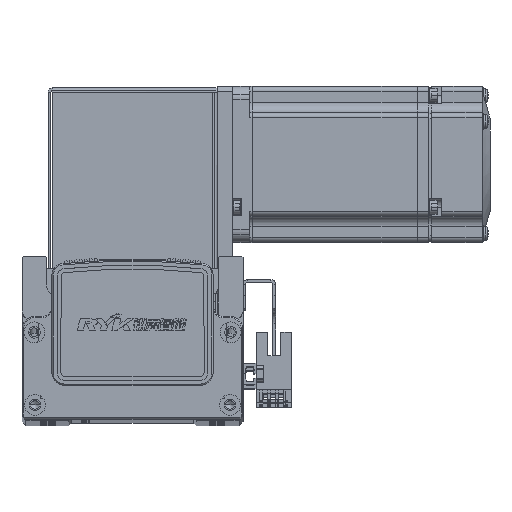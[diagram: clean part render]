
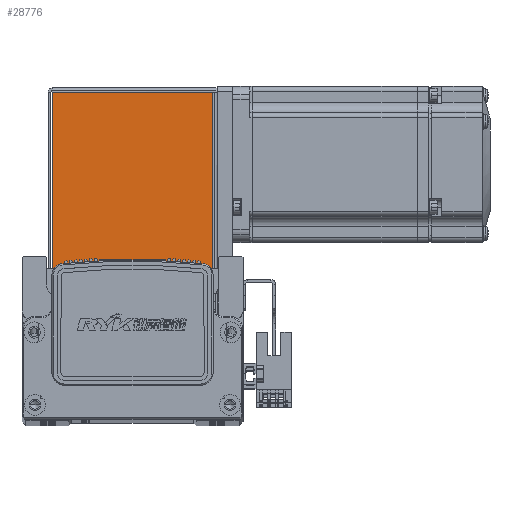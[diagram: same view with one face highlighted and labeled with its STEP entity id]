
A CAD part, top view. The second image highlights one B-rep face of the part: STEP entity #28776.
In plain terms, the highlighted planar face has unit normal (0, 0, 1) as drawn and (0, 0, -1) by its records, which use the part's own axes.
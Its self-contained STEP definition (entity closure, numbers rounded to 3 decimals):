
#752 = LINE ( 'NONE', #79068, #966 ) ;
#966 = VECTOR ( 'NONE', #79099, 1000. ) ;
#988 = LINE ( 'NONE', #79119, #990 ) ;
#990 = VECTOR ( 'NONE', #79079, 1000. ) ;
#1538 = LINE ( 'NONE', #79106, #1540 ) ;
#1540 = VECTOR ( 'NONE', #79091, 1000. ) ;
#1929 = LINE ( 'NONE', #80304, #1972 ) ;
#1972 = VECTOR ( 'NONE', #80302, 1000. ) ;
#15292 = CARTESIAN_POINT ( 'NONE',  ( 0., 0., -35. ) ) ;
#15315 = DIRECTION ( 'NONE',  ( 0., -1., 0. ) ) ;
#15331 = PLANE ( 'NONE',  #32264 ) ;
#15340 = DIRECTION ( 'NONE',  ( 0., 0., 1. ) ) ;
#17990 = VERTEX_POINT ( 'NONE', #57086 ) ;
#28776 = ADVANCED_FACE ( 'NONE', ( #59612 ), #15331, .F. ) ;
#32264 = AXIS2_PLACEMENT_3D ( 'NONE', #15292, #15340, #15315 ) ;
#42339 = ORIENTED_EDGE ( 'NONE', *, *, #45318, .T. ) ;
#42351 = ORIENTED_EDGE ( 'NONE', *, *, #45323, .T. ) ;
#42361 = ORIENTED_EDGE ( 'NONE', *, *, #45256, .F. ) ;
#42452 = ORIENTED_EDGE ( 'NONE', *, *, #45333, .T. ) ;
#43083 = CARTESIAN_POINT ( 'NONE',  ( 30.763, 68.5, -35. ) ) ;
#43094 = CARTESIAN_POINT ( 'NONE',  ( -30.793, 0.737, -35. ) ) ;
#43127 = CARTESIAN_POINT ( 'NONE',  ( -30.793, 68.5, -35. ) ) ;
#45256 = EDGE_CURVE ( 'NONE', #64684, #17990, #1929, .T. ) ;
#45318 = EDGE_CURVE ( 'NONE', #64732, #64722, #988, .T. ) ;
#45323 = EDGE_CURVE ( 'NONE', #64722, #17990, #1538, .T. ) ;
#45333 = EDGE_CURVE ( 'NONE', #64684, #64732, #752, .T. ) ;
#57086 = CARTESIAN_POINT ( 'NONE',  ( 30.763, 0.737, -35. ) ) ;
#59612 = FACE_OUTER_BOUND ( 'NONE', #63175, .T. ) ;
#63175 = EDGE_LOOP ( 'NONE', ( #42351, #42361, #42452, #42339 ) ) ;
#64684 = VERTEX_POINT ( 'NONE', #43094 ) ;
#64722 = VERTEX_POINT ( 'NONE', #43083 ) ;
#64732 = VERTEX_POINT ( 'NONE', #43127 ) ;
#79068 = CARTESIAN_POINT ( 'NONE',  ( -30.793, 0., -35. ) ) ;
#79079 = DIRECTION ( 'NONE',  ( 1., 0., 0. ) ) ;
#79091 = DIRECTION ( 'NONE',  ( 0., -1., 0. ) ) ;
#79099 = DIRECTION ( 'NONE',  ( 0., 1., 0. ) ) ;
#79106 = CARTESIAN_POINT ( 'NONE',  ( 30.763, 68.5, -35. ) ) ;
#79119 = CARTESIAN_POINT ( 'NONE',  ( 0., 68.5, -35. ) ) ;
#80302 = DIRECTION ( 'NONE',  ( 1., 0., 0. ) ) ;
#80304 = CARTESIAN_POINT ( 'NONE',  ( 32.5, 0.737, -35. ) ) ;
